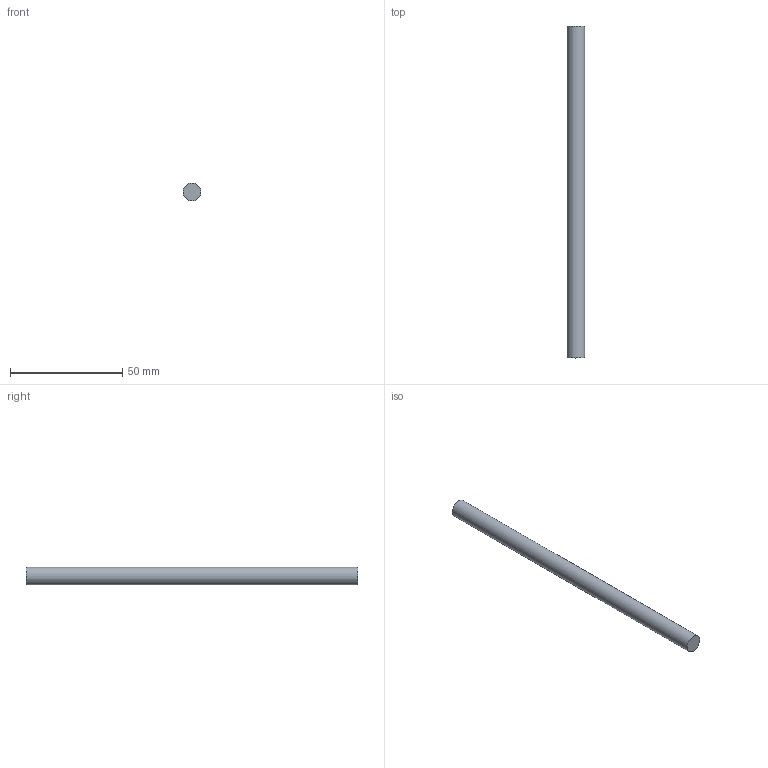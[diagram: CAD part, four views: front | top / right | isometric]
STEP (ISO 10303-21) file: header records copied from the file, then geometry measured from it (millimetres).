
FILE_DESCRIPTION(('Open CASCADE Model'),'2;1');
FILE_NAME('Open CASCADE Shape Model','2026-10-16T18:52:00',('Author'),( 'Open CASCADE'),'Open CASCADE STEP processor 7.8','Open CASCADE 7.8' ,'Unknown');
FILE_SCHEMA(('AUTOMOTIVE_DESIGN { 1 0 10303 214 1 1 1 1 }'));
Length unit declared in the file: millimetre
Products named in the file (1): Open CASCADE STEP translator 7.8 64
Bounding box: 8 x 148 x 8 mm (x, y, z)
Volume: 7439.3 mm3; surface area: 3820.2 mm2
Topology: 1 solids, 1 shells, 3 faces, 3 edges, 2 vertices
Faces by surface type: plane 2, cylinder 1
Full cylindrical faces by diameter (mm): 8 x1
Entity records: 108 total; most frequent: DIRECTION 19, CARTESIAN_POINT 15, AXIS2_PLACEMENT_3D 6, ORIENTED_EDGE 6, PCURVE 6, DEFINITIONAL_REPRESENTATION 6, LINE 5, VECTOR 5
